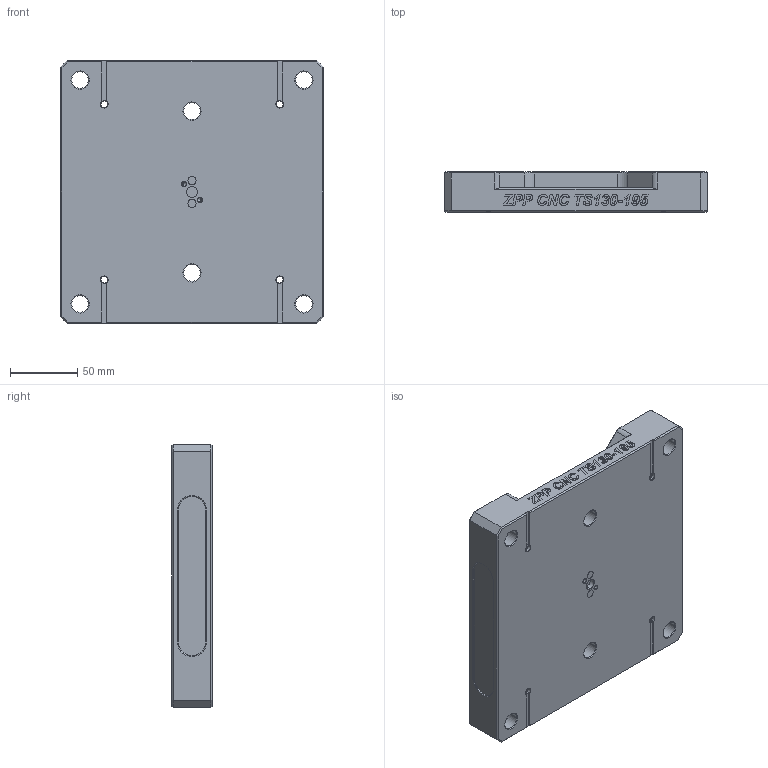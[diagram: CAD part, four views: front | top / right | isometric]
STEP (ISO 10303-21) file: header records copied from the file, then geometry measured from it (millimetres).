
FILE_DESCRIPTION((''),'2;1');
FILE_NAME('PRT0004','2025-12-11T14:27:14',('XF'),(''),'CREO PARAMETRIC BY PTC INC, 2023073','CREO PARAMETRIC BY PTC INC, 2023073','');
FILE_SCHEMA(('CONFIG_CONTROL_DESIGN'));
Length unit declared in the file: millimetre
Products named in the file (1): PRT0004
Bounding box: 195 x 30 x 195 mm (x, y, z)
Volume: 1008097.7 mm3; surface area: 114569.8 mm2
Topology: 1 solids, 5 shells, 852 faces, 2370 edges, 1576 vertices
Faces by surface type: extrusion 372, plane 284, cylinder 104, cone 84, torus 8
Entity records: 29038 total; most frequent: CARTESIAN_POINT 8250, ORIENTED_EDGE 4700, DIRECTION 3338, EDGE_CURVE 2358, VERTEX_POINT 1576, VECTOR 1556, LINE 1184, B_SPLINE_CURVE_WITH_KNOTS 1136
